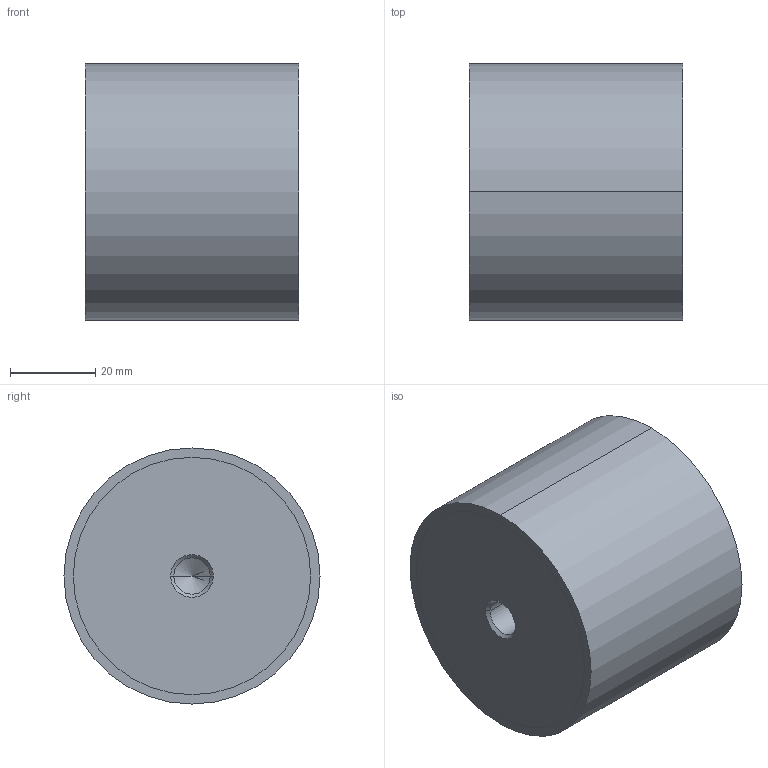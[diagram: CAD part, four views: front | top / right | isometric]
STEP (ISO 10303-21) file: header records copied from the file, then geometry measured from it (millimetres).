
FILE_DESCRIPTION (( 'STEP AP214' ), '1' );
FILE_NAME ('451-60-50-M10-EE-55.step', '2020-03-05T09:14:23', ( '' ), ( '' ), 'SwSTEP 2.0', 'SolidWorks 2019', '' );
FILE_SCHEMA (( 'AUTOMOTIVE_DESIGN' ));
Length unit declared in the file: millimetre
Products named in the file (1): 451-60-50-M10-EE-55
Bounding box: 50 x 60 x 60 mm (x, y, z)
Volume: 140077.3 mm3; surface area: 15613.9 mm2
Topology: 1 solids, 1 shells, 22 faces, 46 edges, 26 vertices
Faces by surface type: cylinder 10, cone 8, plane 4
Entity records: 684 total; most frequent: DIRECTION 112, CARTESIAN_POINT 91, ORIENTED_EDGE 84, AXIS2_PLACEMENT_3D 47, EDGE_CURVE 42, EDGE_LOOP 26, VERTEX_POINT 26, CIRCLE 24
